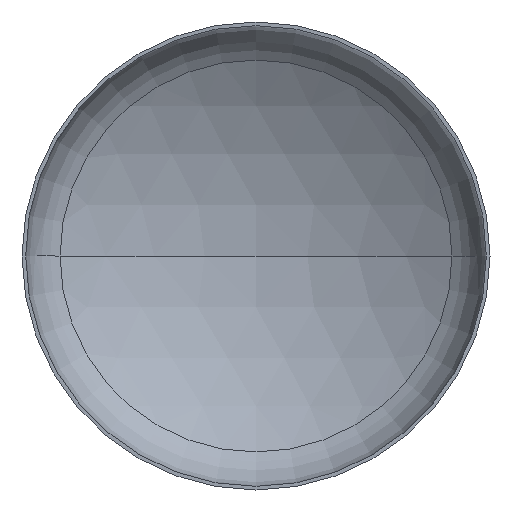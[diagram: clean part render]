
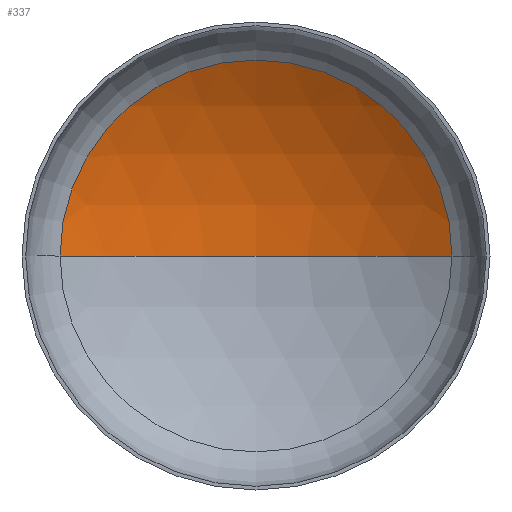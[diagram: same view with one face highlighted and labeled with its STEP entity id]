
A CAD part, front view. The second image highlights one B-rep face of the part: STEP entity #337.
In plain terms, the highlighted spherical face has radius 4800 mm.
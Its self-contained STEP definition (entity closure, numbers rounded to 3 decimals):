
#14 = ORIENTED_EDGE ( 'NONE', *, *, #172, .T. ) ;
#17 = VERTEX_POINT ( 'NONE', #384 ) ;
#21 = CIRCLE ( 'NONE', #81, 4800. ) ;
#24 = ORIENTED_EDGE ( 'NONE', *, *, #175, .T. ) ;
#27 = AXIS2_PLACEMENT_3D ( 'NONE', #319, #307, #199 ) ;
#51 = ORIENTED_EDGE ( 'NONE', *, *, #183, .F. ) ;
#81 = AXIS2_PLACEMENT_3D ( 'NONE', #391, #240, #409 ) ;
#85 = AXIS2_PLACEMENT_3D ( 'NONE', #244, #243, #242 ) ;
#88 = VERTEX_POINT ( 'NONE', #297 ) ;
#91 = AXIS2_PLACEMENT_3D ( 'NONE', #269, #264, #263 ) ;
#115 = VERTEX_POINT ( 'NONE', #348 ) ;
#172 = EDGE_CURVE ( 'NONE', #88, #115, #309, .T. ) ;
#175 = EDGE_CURVE ( 'NONE', #17, #88, #251, .T. ) ;
#183 = EDGE_CURVE ( 'NONE', #17, #115, #21, .T. ) ;
#199 = DIRECTION ( 'NONE',  ( -1., 0., 0. ) ) ;
#225 = FACE_OUTER_BOUND ( 'NONE', #405, .T. ) ;
#240 = DIRECTION ( 'NONE',  ( 0., 0., 1. ) ) ;
#242 = DIRECTION ( 'NONE',  ( -1., 0., 0. ) ) ;
#243 = DIRECTION ( 'NONE',  ( 0., 0., -1. ) ) ;
#244 = CARTESIAN_POINT ( 'NONE',  ( 0., -3151.945, 0. ) ) ;
#251 = CIRCLE ( 'NONE', #85, 4800. ) ;
#263 = DIRECTION ( 'NONE',  ( 1., 0., 0. ) ) ;
#264 = DIRECTION ( 'NONE',  ( 0., -1., 0. ) ) ;
#269 = CARTESIAN_POINT ( 'NONE',  ( 0., 938.206, 0. ) ) ;
#297 = CARTESIAN_POINT ( 'NONE',  ( 2512.103, 938.206, 0. ) ) ;
#307 = DIRECTION ( 'NONE',  ( 0., 0., -1. ) ) ;
#309 = CIRCLE ( 'NONE', #91, 2512.103 ) ;
#319 = CARTESIAN_POINT ( 'NONE',  ( 0., -3151.945, 0. ) ) ;
#337 = ADVANCED_FACE ( 'NONE', ( #225 ), #400, .F. ) ;
#348 = CARTESIAN_POINT ( 'NONE',  ( -2512.103, 938.206, 0. ) ) ;
#384 = CARTESIAN_POINT ( 'NONE',  ( 0., 1648.055, 0. ) ) ;
#391 = CARTESIAN_POINT ( 'NONE',  ( 0., -3151.945, 0. ) ) ;
#400 = SPHERICAL_SURFACE ( 'NONE', #27, 4800. ) ;
#405 = EDGE_LOOP ( 'NONE', ( #51, #24, #14 ) ) ;
#409 = DIRECTION ( 'NONE',  ( 1., 0., 0. ) ) ;
